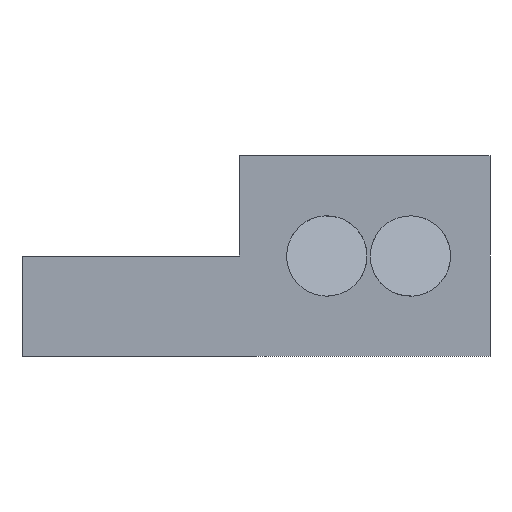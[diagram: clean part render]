
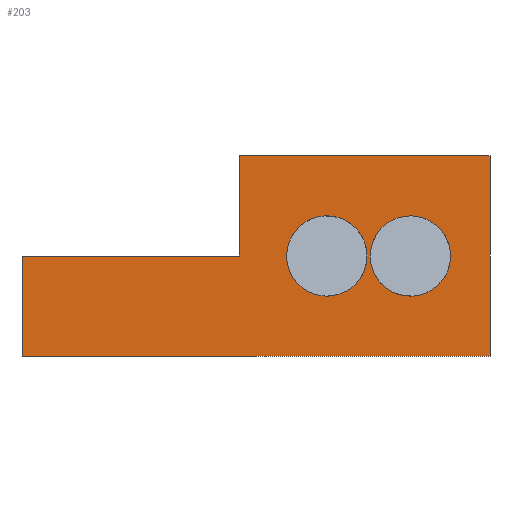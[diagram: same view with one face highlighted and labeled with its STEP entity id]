
A CAD part, front view. The second image highlights one B-rep face of the part: STEP entity #203.
In plain terms, the highlighted planar face has unit normal (0, -1, 0).
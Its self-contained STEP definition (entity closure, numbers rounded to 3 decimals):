
#84=CARTESIAN_POINT('',(9.819,-11.5,3.));
#85=VERTEX_POINT('',#84);
#86=CARTESIAN_POINT('',(8.619,-11.5,3.));
#87=DIRECTION('',(0.0,1.0,0.0));
#88=DIRECTION('',(-1.0,0.0,0.0));
#89=AXIS2_PLACEMENT_3D('',#86,#87,#88);
#90=CIRCLE('',#89,1.2);
#91=EDGE_CURVE('',#85,#85,#90,.T.);
#130=CARTESIAN_POINT('',(7.319,-11.5,3.));
#131=VERTEX_POINT('',#130);
#132=CARTESIAN_POINT('',(6.119,-11.5,3.));
#133=DIRECTION('',(0.0,1.0,0.0));
#134=DIRECTION('',(-1.0,0.0,0.0));
#135=AXIS2_PLACEMENT_3D('',#132,#133,#134);
#136=CIRCLE('',#135,1.2);
#137=EDGE_CURVE('',#131,#131,#136,.T.);
#142=CARTESIAN_POINT('',(11.,-11.5,0.0));
#143=DIRECTION('',(0.0,-1.0,0.0));
#144=DIRECTION('',(0.0,0.0,-1.0));
#145=AXIS2_PLACEMENT_3D('',#142,#143,#144);
#146=PLANE('',#145);
#147=CARTESIAN_POINT('',(3.5,-11.5,3.));
#148=VERTEX_POINT('',#147);
#149=CARTESIAN_POINT('',(-3.,-11.5,3.));
#150=VERTEX_POINT('',#149);
#151=CARTESIAN_POINT('',(3.5,-11.5,3.));
#152=DIRECTION('',(-1.0,0.0,0.0));
#153=VECTOR('',#152,6.5);
#154=LINE('',#151,#153);
#155=EDGE_CURVE('',#148,#150,#154,.T.);
#156=ORIENTED_EDGE('',*,*,#155,.T.);
#157=CARTESIAN_POINT('',(-3.,-11.5,0.0));
#158=VERTEX_POINT('',#157);
#159=CARTESIAN_POINT('',(-3.,-11.5,0.0));
#160=DIRECTION('',(0.0,0.0,1.0));
#161=VECTOR('',#160,3.);
#162=LINE('',#159,#161);
#163=EDGE_CURVE('',#158,#150,#162,.T.);
#164=ORIENTED_EDGE('',*,*,#163,.F.);
#165=CARTESIAN_POINT('',(11.,-11.5,0.0));
#166=VERTEX_POINT('',#165);
#167=CARTESIAN_POINT('',(-3.,-11.5,0.0));
#168=DIRECTION('',(1.0,0.0,0.0));
#169=VECTOR('',#168,14.);
#170=LINE('',#167,#169);
#171=EDGE_CURVE('',#158,#166,#170,.T.);
#172=ORIENTED_EDGE('',*,*,#171,.T.);
#173=CARTESIAN_POINT('',(11.,-11.5,6.));
#174=VERTEX_POINT('',#173);
#175=CARTESIAN_POINT('',(11.,-11.5,0.0));
#176=DIRECTION('',(0.0,0.0,1.0));
#177=VECTOR('',#176,6.);
#178=LINE('',#175,#177);
#179=EDGE_CURVE('',#166,#174,#178,.T.);
#180=ORIENTED_EDGE('',*,*,#179,.T.);
#181=CARTESIAN_POINT('',(3.5,-11.5,6.));
#182=VERTEX_POINT('',#181);
#183=CARTESIAN_POINT('',(11.,-11.5,6.));
#184=DIRECTION('',(-1.0,0.0,0.0));
#185=VECTOR('',#184,7.5);
#186=LINE('',#183,#185);
#187=EDGE_CURVE('',#174,#182,#186,.T.);
#188=ORIENTED_EDGE('',*,*,#187,.T.);
#189=CARTESIAN_POINT('',(3.5,-11.5,3.));
#190=DIRECTION('',(0.0,0.0,1.0));
#191=VECTOR('',#190,3.);
#192=LINE('',#189,#191);
#193=EDGE_CURVE('',#148,#182,#192,.T.);
#194=ORIENTED_EDGE('',*,*,#193,.F.);
#195=EDGE_LOOP('',(#156,#164,#172,#180,#188,#194));
#196=FACE_OUTER_BOUND('',#195,.T.);
#197=ORIENTED_EDGE('',*,*,#137,.T.);
#198=EDGE_LOOP('',(#197));
#199=FACE_BOUND('',#198,.T.);
#200=ORIENTED_EDGE('',*,*,#91,.T.);
#201=EDGE_LOOP('',(#200));
#202=FACE_BOUND('',#201,.T.);
#203=ADVANCED_FACE('',(#196,#199,#202),#146,.T.);
